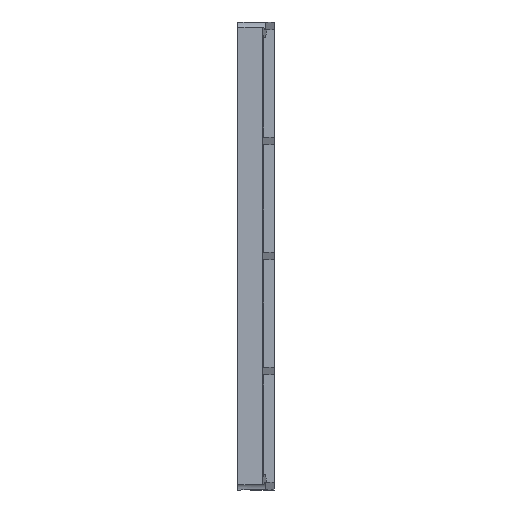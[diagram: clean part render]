
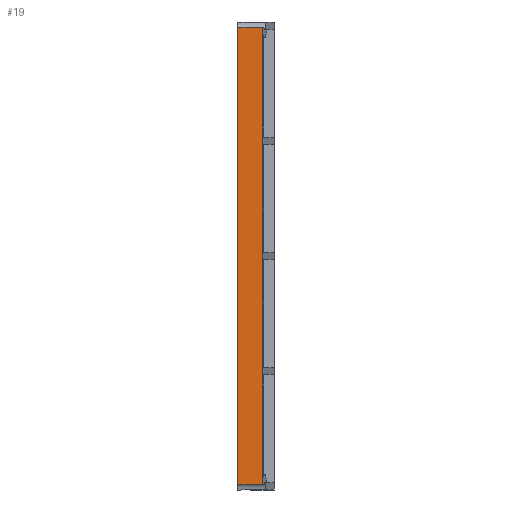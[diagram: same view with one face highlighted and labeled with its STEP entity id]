
A CAD part, left-side view. The second image highlights one B-rep face of the part: STEP entity #19.
In plain terms, the highlighted planar face has unit normal (-1, 0, 0).
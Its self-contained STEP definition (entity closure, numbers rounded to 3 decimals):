
#19 = ADVANCED_FACE ( 'NONE', ( #2335 ), #7491, .F. ) ;
#555 = CARTESIAN_POINT ( 'NONE',  ( 0., 0., 89. ) ) ;
#1436 = LINE ( 'NONE', #12733, #7161 ) ;
#1786 = VECTOR ( 'NONE', #8297, 1000. ) ;
#1869 = VECTOR ( 'NONE', #6095, 1000. ) ;
#2111 = VECTOR ( 'NONE', #5322, 1000. ) ;
#2335 = FACE_OUTER_BOUND ( 'NONE', #11668, .T. ) ;
#2740 = CARTESIAN_POINT ( 'NONE',  ( 0., 4.751, 1. ) ) ;
#2903 = EDGE_CURVE ( 'NONE', #12645, #11280, #11447, .T. ) ;
#5234 = EDGE_CURVE ( 'NONE', #12645, #10654, #1436, .T. ) ;
#5322 = DIRECTION ( 'NONE',  ( 0., 0., -1. ) ) ;
#5384 = ORIENTED_EDGE ( 'NONE', *, *, #6041, .F. ) ;
#6041 = EDGE_CURVE ( 'NONE', #11280, #13731, #10598, .T. ) ;
#6089 = CARTESIAN_POINT ( 'NONE',  ( 0., 4.751, 120. ) ) ;
#6095 = DIRECTION ( 'NONE',  ( 0., 1., 0. ) ) ;
#6244 = CARTESIAN_POINT ( 'NONE',  ( 0., 4.751, 89. ) ) ;
#6855 = CARTESIAN_POINT ( 'NONE',  ( 0., 4.751, 120. ) ) ;
#7161 = VECTOR ( 'NONE', #12493, 1000. ) ;
#7491 = PLANE ( 'NONE',  #7978 ) ;
#7853 = ORIENTED_EDGE ( 'NONE', *, *, #2903, .F. ) ;
#7978 = AXIS2_PLACEMENT_3D ( 'NONE', #6089, #11062, #10369 ) ;
#8297 = DIRECTION ( 'NONE',  ( 0., 0., -1. ) ) ;
#9269 = LINE ( 'NONE', #6855, #1786 ) ;
#9303 = EDGE_CURVE ( 'NONE', #10654, #13731, #9269, .T. ) ;
#9434 = CARTESIAN_POINT ( 'NONE',  ( 0., 0., 1. ) ) ;
#10369 = DIRECTION ( 'NONE',  ( 0., 0., -1. ) ) ;
#10454 = ORIENTED_EDGE ( 'NONE', *, *, #5234, .T. ) ;
#10598 = LINE ( 'NONE', #12450, #1869 ) ;
#10654 = VERTEX_POINT ( 'NONE', #6244 ) ;
#11062 = DIRECTION ( 'NONE',  ( 1., 0., 0. ) ) ;
#11280 = VERTEX_POINT ( 'NONE', #9434 ) ;
#11447 = LINE ( 'NONE', #13995, #2111 ) ;
#11668 = EDGE_LOOP ( 'NONE', ( #11849, #5384, #7853, #10454 ) ) ;
#11849 = ORIENTED_EDGE ( 'NONE', *, *, #9303, .T. ) ;
#12450 = CARTESIAN_POINT ( 'NONE',  ( 0., -5.249, 1. ) ) ;
#12493 = DIRECTION ( 'NONE',  ( 0., 1., 0. ) ) ;
#12645 = VERTEX_POINT ( 'NONE', #555 ) ;
#12733 = CARTESIAN_POINT ( 'NONE',  ( 0., -5.249, 89. ) ) ;
#13731 = VERTEX_POINT ( 'NONE', #2740 ) ;
#13995 = CARTESIAN_POINT ( 'NONE',  ( 0., 0., 120. ) ) ;
